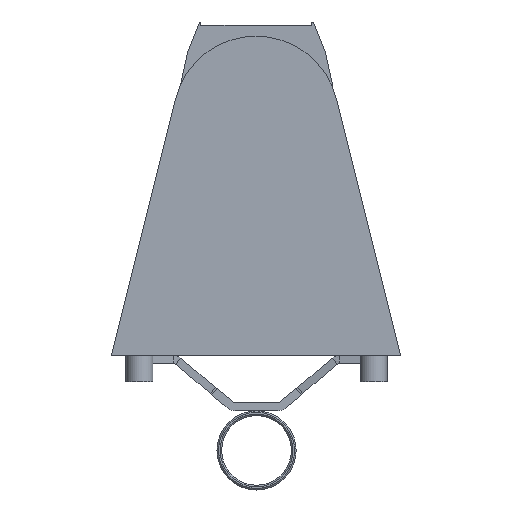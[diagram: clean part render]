
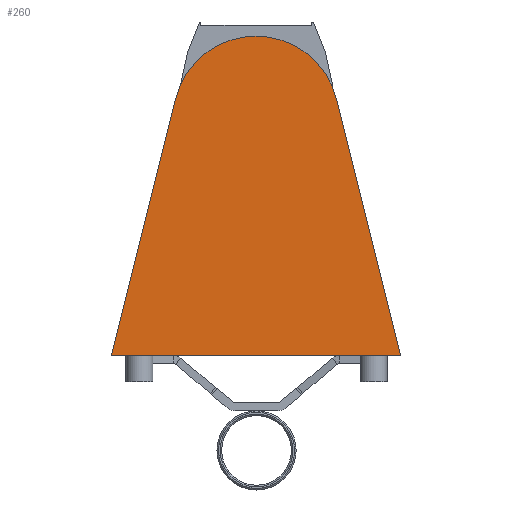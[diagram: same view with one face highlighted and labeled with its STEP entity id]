
A CAD part, left-side view. The second image highlights one B-rep face of the part: STEP entity #260.
In plain terms, the highlighted planar face has unit normal (-1, 0, 0).
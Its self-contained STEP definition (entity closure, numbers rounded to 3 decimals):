
#260 = ADVANCED_FACE( '', ( #542 ), #543, .T. );
#542 = FACE_OUTER_BOUND( '', #896, .T. );
#543 = PLANE( '', #897 );
#896 = EDGE_LOOP( '', ( #1321, #1322, #1323, #1324 ) );
#897 = AXIS2_PLACEMENT_3D( '', #1325, #1326, #1327 );
#1321 = ORIENTED_EDGE( '', *, *, #2001, .T. );
#1322 = ORIENTED_EDGE( '', *, *, #2002, .T. );
#1323 = ORIENTED_EDGE( '', *, *, #2003, .T. );
#1324 = ORIENTED_EDGE( '', *, *, #1927, .T. );
#1325 = CARTESIAN_POINT( '', ( -255., 0.335, 147.625 ) );
#1326 = DIRECTION( '', ( -1., 0., 0. ) );
#1327 = DIRECTION( '', ( 0., -1., 0. ) );
#1927 = EDGE_CURVE( '', #2217, #2218, #2219, .T. );
#2001 = EDGE_CURVE( '', #2218, #2346, #2347, .T. );
#2002 = EDGE_CURVE( '', #2346, #2348, #2349, .T. );
#2003 = EDGE_CURVE( '', #2348, #2217, #2350, .T. );
#2217 = VERTEX_POINT( '', #2628 );
#2218 = VERTEX_POINT( '', #2629 );
#2219 = LINE( '', #2630, #2631 );
#2346 = VERTEX_POINT( '', #2816 );
#2347 = LINE( '', #2817, #2818 );
#2348 = VERTEX_POINT( '', #2819 );
#2349 = CIRCLE( '', #2820, 52.459 );
#2350 = LINE( '', #2821, #2822 );
#2628 = CARTESIAN_POINT( '', ( -255., 91.607, -1.602 ) );
#2629 = CARTESIAN_POINT( '', ( -255., -90.936, -1.602 ) );
#2630 = CARTESIAN_POINT( '', ( -255., -90.936, -1.602 ) );
#2631 = VECTOR( '', #3185, 1000. );
#2816 = CARTESIAN_POINT( '', ( -255., -50.565, 160.316 ) );
#2817 = CARTESIAN_POINT( '', ( -255., -90.936, -1.602 ) );
#2818 = VECTOR( '', #3283, 1000. );
#2819 = CARTESIAN_POINT( '', ( -255., 51.236, 160.316 ) );
#2820 = AXIS2_PLACEMENT_3D( '', #3284, #3285, #3286 );
#2821 = CARTESIAN_POINT( '', ( -255., 51.236, 160.316 ) );
#2822 = VECTOR( '', #3287, 1000. );
#3185 = DIRECTION( '', ( 0., -1., 0. ) );
#3283 = DIRECTION( '', ( 0., 0.242, 0.97 ) );
#3284 = CARTESIAN_POINT( '', ( -255., 0.335, 147.625 ) );
#3285 = DIRECTION( '', ( -1., 0., 0. ) );
#3286 = DIRECTION( '', ( 0., 1., 0. ) );
#3287 = DIRECTION( '', ( 0., 0.242, -0.97 ) );
